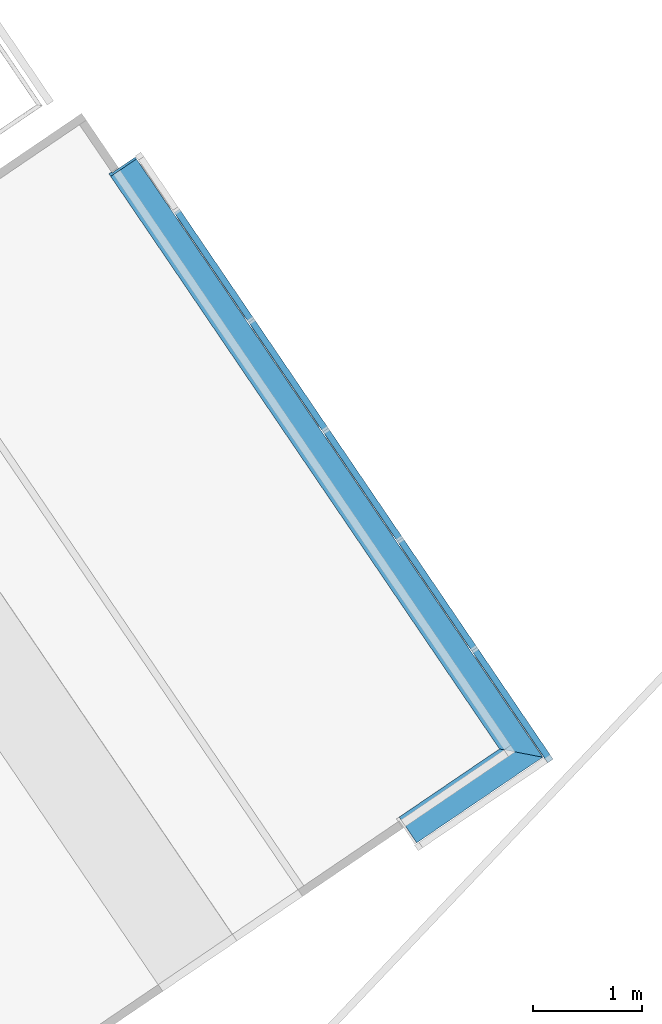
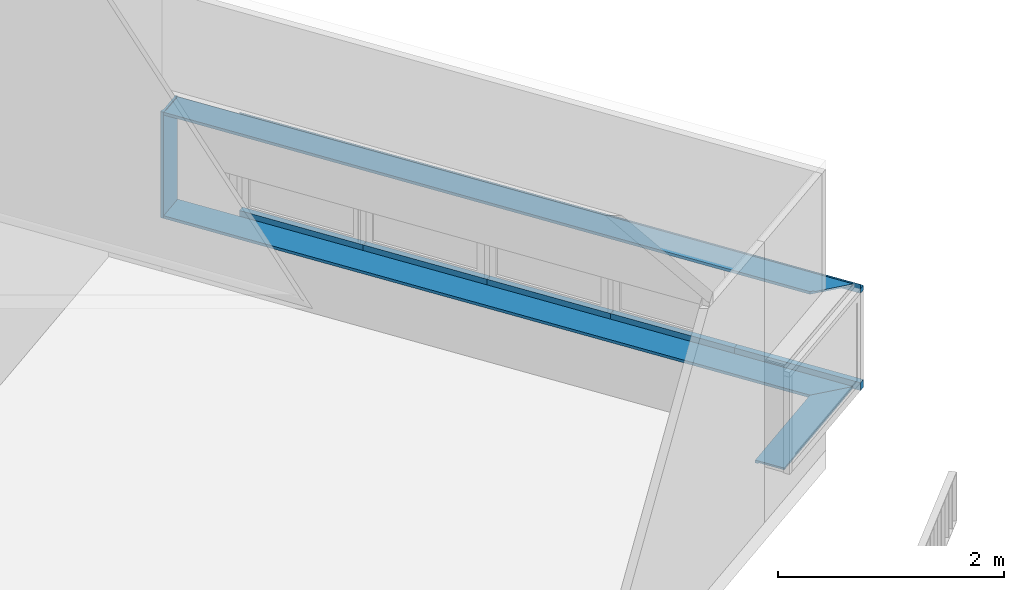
# One storey, part 66 of 243: 14 members, 3 elements without a shape of their own.
"""IFC2X3 building model written with IfcOpenShell, lengths in metres."""

from ifc_helpers import new_model, entity, si_unit, converted_unit, derived_unit, direction, frame, origin, origin_2d_with_axis, place, context, subcontext, project, spatial, polyline, rectangle, outline, extrude, clip, halfspace, source, transform, mapped, material, type_object, type_shapes, element, aggregate, save


model = new_model("IFC2X3")

# Units and contexts
model_context = context("Model", 3, precision=1e-05, world=origin(), true_north=direction((6.123031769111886e-17, 1.0)))
body_context = subcontext(model_context, "Body", "Model", "MODEL_VIEW")
ifc_project = project(units=[si_unit("LENGTHUNIT", "METRE"), si_unit("AREAUNIT", "SQUARE_METRE"), si_unit("VOLUMEUNIT", "CUBIC_METRE"), converted_unit("PLANEANGLEUNIT", "DEGREE", entity("IfcRatioMeasure", 0.017453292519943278), si_unit("PLANEANGLEUNIT", "RADIAN"), dimensions=[0, 0, 0, 0, 0, 0, 0]), si_unit("MASSUNIT", "GRAM", prefix="KILO"), derived_unit("MASSDENSITYUNIT", [(si_unit("MASSUNIT", "GRAM", prefix="KILO"), 1), (si_unit("LENGTHUNIT", "METRE"), -3)]), derived_unit("IONCONCENTRATIONUNIT", [(si_unit("MASSUNIT", "GRAM", prefix="KILO"), 1), (si_unit("LENGTHUNIT", "METRE"), -3)]), derived_unit("MOMENTOFINERTIAUNIT", [(si_unit("LENGTHUNIT", "METRE"), 4)]), si_unit("TIMEUNIT", "SECOND"), si_unit("FREQUENCYUNIT", "HERTZ"), si_unit("THERMODYNAMICTEMPERATUREUNIT", "DEGREE_CELSIUS"), derived_unit("THERMALTRANSMITTANCEUNIT", [(si_unit("MASSUNIT", "GRAM", prefix="KILO"), 1), (si_unit("THERMODYNAMICTEMPERATUREUNIT", "KELVIN"), -1), (si_unit("TIMEUNIT", "SECOND"), -3)]), derived_unit("THERMALCONDUCTANCEUNIT", [(si_unit("MASSUNIT", "GRAM", prefix="KILO"), 1), (si_unit("THERMODYNAMICTEMPERATUREUNIT", "KELVIN"), -1), (si_unit("TIMEUNIT", "SECOND"), -3), (si_unit("LENGTHUNIT", "METRE"), 1)]), derived_unit("VOLUMETRICFLOWRATEUNIT", [(si_unit("LENGTHUNIT", "METRE"), 3), (si_unit("TIMEUNIT", "SECOND"), -1)]), derived_unit("MASSFLOWRATEUNIT", [(si_unit("MASSUNIT", "GRAM", prefix="KILO"), 1), (si_unit("TIMEUNIT", "SECOND"), -1)]), derived_unit("ROTATIONALFREQUENCYUNIT", [(si_unit("TIMEUNIT", "SECOND"), -1)]), si_unit("ELECTRICCURRENTUNIT", "AMPERE"), si_unit("ELECTRICVOLTAGEUNIT", "VOLT"), si_unit("POWERUNIT", "WATT"), si_unit("FORCEUNIT", "NEWTON", prefix="KILO"), si_unit("ILLUMINANCEUNIT", "LUX"), si_unit("LUMINOUSFLUXUNIT", "LUMEN"), si_unit("LUMINOUSINTENSITYUNIT", "CANDELA"), derived_unit("USERDEFINED", [(si_unit("MASSUNIT", "GRAM", prefix="KILO"), -1), (si_unit("LENGTHUNIT", "METRE"), -2), (si_unit("TIMEUNIT", "SECOND"), 3), (si_unit("LUMINOUSFLUXUNIT", "LUMEN"), 1)]), derived_unit("USERDEFINED", [(si_unit("MASSUNIT", "GRAM", prefix="KILO"), 1), (si_unit("TIMEUNIT", "SECOND"), -3), (si_unit("LENGTHUNIT", "METRE"), 3), (si_unit("ELECTRICCURRENTUNIT", "AMPERE"), -2)]), derived_unit("SOUNDPOWERUNIT", [(si_unit("MASSUNIT", "GRAM", prefix="KILO"), 1), (si_unit("TIMEUNIT", "SECOND"), -3), (si_unit("LENGTHUNIT", "METRE"), 2)]), derived_unit("SOUNDPRESSUREUNIT", [(si_unit("MASSUNIT", "GRAM", prefix="KILO"), 1), (si_unit("LENGTHUNIT", "METRE"), -1), (si_unit("TIMEUNIT", "SECOND"), -2)]), derived_unit("LINEARVELOCITYUNIT", [(si_unit("LENGTHUNIT", "METRE"), 1), (si_unit("TIMEUNIT", "SECOND"), -1)]), si_unit("PRESSUREUNIT", "PASCAL"), derived_unit("USERDEFINED", [(si_unit("MASSUNIT", "GRAM", prefix="KILO"), 1), (si_unit("LENGTHUNIT", "METRE"), -2), (si_unit("TIMEUNIT", "SECOND"), -2)]), derived_unit("LINEARFORCEUNIT", [(si_unit("MASSUNIT", "GRAM", prefix="KILO"), 1), (si_unit("TIMEUNIT", "SECOND"), -2)]), derived_unit("PLANARFORCEUNIT", [(si_unit("MASSUNIT", "GRAM", prefix="KILO"), 1), (si_unit("LENGTHUNIT", "METRE"), -1), (si_unit("TIMEUNIT", "SECOND"), -2)]), derived_unit("SPECIFICHEATCAPACITYUNIT", [(si_unit("THERMODYNAMICTEMPERATUREUNIT", "KELVIN"), -1), (si_unit("LENGTHUNIT", "METRE"), 2), (si_unit("TIMEUNIT", "SECOND"), -2)]), derived_unit("HEATINGVALUEUNIT", [(si_unit("LENGTHUNIT", "METRE"), 2), (si_unit("TIMEUNIT", "SECOND"), -2)]), derived_unit("VAPORPERMEABILITYUNIT", [(si_unit("LENGTHUNIT", "METRE"), -1), (si_unit("TIMEUNIT", "SECOND"), 1)]), derived_unit("DYNAMICVISCOSITYUNIT", [(si_unit("MASSUNIT", "GRAM", prefix="KILO"), 1), (si_unit("TIMEUNIT", "SECOND"), -1), (si_unit("LENGTHUNIT", "METRE"), -1)]), derived_unit("THERMALEXPANSIONCOEFFICIENTUNIT", [(si_unit("THERMODYNAMICTEMPERATUREUNIT", "KELVIN"), -1)]), derived_unit("MODULUSOFELASTICITYUNIT", [(si_unit("MASSUNIT", "GRAM", prefix="KILO"), 1), (si_unit("LENGTHUNIT", "METRE"), -1), (si_unit("TIMEUNIT", "SECOND"), -2)]), derived_unit("ISOTHERMALMOISTURECAPACITYUNIT", [(si_unit("LENGTHUNIT", "METRE"), 3), (si_unit("MASSUNIT", "GRAM", prefix="KILO"), -1)]), derived_unit("MOISTUREDIFFUSIVITYUNIT", [(si_unit("TIMEUNIT", "SECOND"), -1), (si_unit("LENGTHUNIT", "METRE"), 2)])], contexts=[model_context])

# Site, building, storey
site_placement = place(None, frame((0.0, 0.0, 235.0), z_axis=(0.0, 0.0, 1.0), x_axis=(-0.7996477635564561, 0.6004693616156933, 0.0)))
site = spatial("IfcSite", under=ifc_project, at=site_placement, Name="Default", CompositionType="ELEMENT")
building_placement = place(site_placement, origin())
building = spatial("IfcBuilding", under=site, at=building_placement, CompositionType="ELEMENT")
storey_placement = place(building_placement, origin())
storey = spatial("IfcBuildingStorey", under=building, at=storey_placement, Name="P0- Escola", CompositionType="ELEMENT", Elevation=0.0)

# Curtain wall, members
curtain_wall_type_1 = type_object("IfcCurtainWallType", Name="Muro cortina:MC- EXT- MC7", PredefinedType="NOTDEFINED")
curtain_wall_1_placement = place(storey_placement, origin())
curtain_wall_1 = element("IfcCurtainWall", 1, at=curtain_wall_1_placement, inside=storey, type_object=curtain_wall_type_1, Name="Muro cortina:MC- EXT- MC7", ObjectType="Muro cortina:MC- EXT- MC7")
ifc_material_1 = material(Name="_Alumini- T1- Perfil")
member_type_1 = type_object("IfcMemberType", Name="Montante rectangular:MC- Alu- 52x80 cm- Fa pista- inferior", PredefinedType="MULLION", material=ifc_material_1)
shared_shape_1 = source(origin(), body_context, "Body", "SweptSolid", [
    extrude(rectangle(XDim=0.06000000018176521, YDim=0.085, at=origin_2d_with_axis()), frame((-0.0425, -0.030000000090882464, -1.243000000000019), z_axis=(0.0, 0.0, 1.0), x_axis=(0.0, -1.0, 0.0)), (0.0, 0.0, 1.0), 1.2430000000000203),
])
type_shapes(member_type_1, [shared_shape_1])
member_1_placement = place(curtain_wall_1_placement, frame((57.87337592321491, -50.77606702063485, 0.6000000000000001), z_axis=(-0.9460037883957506, 0.3241555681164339, 0.0), x_axis=(0.0, 0.0, -1.0)))
member_1 = element("IfcMember", 2, at=member_1_placement, type_object=member_type_1, material=ifc_material_1, Name="Montante rectangular:MC- Alu- 52x80 cm- Fa pista- inferior", ObjectType="Montante rectangular:MC- Alu- 52x80 cm- Fa pista- inferior", context=body_context, shape_type="MappedRepresentation", body=[
    mapped(shared_shape_1, transform((0.0, 0.0, 0.0), scale=1.0)),
])
member_type_2 = type_object("IfcMemberType", Name="Montante rectangular:MC- Alu- 140x52,5 cm- Fa pista- Superior", PredefinedType="MULLION", material=ifc_material_1)
shared_shape_2 = source(origin(), body_context, "Body", "SweptSolid", [
    extrude(outline(polyline([(-0.03933333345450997, -0.04916666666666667), (0.02066666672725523, -0.04916666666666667), (0.020666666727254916, 0.048333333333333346), (0.018666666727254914, 0.04833333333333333), (0.018666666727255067, 0.00083333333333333), (-0.03933333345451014, 0.00083333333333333), (-0.03933333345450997, -0.04916666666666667)])), frame((-0.048333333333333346, -0.03933333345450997, -1.2190000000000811), z_axis=(0.0, 0.0, 1.0), x_axis=(0.0, -1.0, 0.0)), (0.0, 0.0, 1.0), 1.219000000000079),
])
type_shapes(member_type_2, [shared_shape_2])
member_2_placement = place(curtain_wall_1_placement, frame((63.659135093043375, -52.75860247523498, 1.7499999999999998), z_axis=(0.9460037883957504, -0.32415556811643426, 0.0), x_axis=(0.0, 0.0, 1.0)))
member_2 = element("IfcMember", 3, at=member_2_placement, type_object=member_type_2, material=ifc_material_1, Name="Montante rectangular:MC- Alu- 140x52,5 cm- Fa pista- Superior", ObjectType="Montante rectangular:MC- Alu- 140x52,5 cm- Fa pista- Superior", context=body_context, shape_type="MappedRepresentation", body=[
    mapped(shared_shape_2, transform((0.0, 0.0, 0.0), scale=1.0)),
])
member_type_3 = type_object("IfcMemberType", Name="Montante rectangular:MC- Alu- 140x52,5 cm- Fa pista- Superior", PredefinedType="MULLION", material=ifc_material_1)
shared_shape_3 = source(origin(), body_context, "Body", "SweptSolid", [
    extrude(outline(polyline([(-0.03933333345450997, -0.04916666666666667), (0.02066666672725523, -0.04916666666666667), (0.020666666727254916, 0.048333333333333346), (0.018666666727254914, 0.04833333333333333), (0.018666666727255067, 0.00083333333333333), (-0.03933333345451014, 0.00083333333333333), (-0.03933333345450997, -0.04916666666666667)])), frame((-0.048333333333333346, -0.03933333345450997, -1.2179999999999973), z_axis=(0.0, 0.0, 1.0), x_axis=(0.0, -1.0, 0.0)), (0.0, 0.0, 1.0), 1.217999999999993),
])
type_shapes(member_type_3, [shared_shape_3])
member_3_placement = place(curtain_wall_1_placement, frame((62.50595647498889, -52.36345683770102, 1.7499999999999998), z_axis=(0.9460037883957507, -0.32415556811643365, 0.0), x_axis=(0.0, 0.0, 1.0)))
member_3 = element("IfcMember", 4, at=member_3_placement, type_object=member_type_3, material=ifc_material_1, Name="Montante rectangular:MC- Alu- 140x52,5 cm- Fa pista- Superior", ObjectType="Montante rectangular:MC- Alu- 140x52,5 cm- Fa pista- Superior", context=body_context, shape_type="MappedRepresentation", body=[
    mapped(shared_shape_3, transform((0.0, 0.0, 0.0), scale=1.0)),
])
member_4_placement = place(curtain_wall_1_placement, frame((61.353723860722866, -51.9686353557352, 1.7499999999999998), z_axis=(0.9460037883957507, -0.3241555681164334, 0.0), x_axis=(0.0, 0.0, 1.0)))
member_4 = element("IfcMember", 5, at=member_4_placement, type_object=member_type_3, material=ifc_material_1, Name="Montante rectangular:MC- Alu- 140x52,5 cm- Fa pista- Superior", ObjectType="Montante rectangular:MC- Alu- 140x52,5 cm- Fa pista- Superior", context=body_context, shape_type="MappedRepresentation", body=[
    mapped(shared_shape_3, transform((0.0, 0.0, 0.0), scale=1.0)),
])
member_5_placement = place(curtain_wall_1_placement, frame((60.20149124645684, -51.573813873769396, 1.7499999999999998), z_axis=(0.9460037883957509, -0.32415556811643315, 0.0), x_axis=(0.0, 0.0, 1.0)))
member_5 = element("IfcMember", 6, at=member_5_placement, type_object=member_type_3, material=ifc_material_1, Name="Montante rectangular:MC- Alu- 140x52,5 cm- Fa pista- Superior", ObjectType="Montante rectangular:MC- Alu- 140x52,5 cm- Fa pista- Superior", context=body_context, shape_type="MappedRepresentation", body=[
    mapped(shared_shape_3, transform((0.0, 0.0, 0.0), scale=1.0)),
])
member_type_4 = type_object("IfcMemberType", Name="Montante rectangular:MC- Alu- 52x80 cm- Fa pista- inferior", PredefinedType="MULLION", material=ifc_material_1)
shared_shape_4 = source(origin(), body_context, "Body", "SweptSolid", [
    extrude(rectangle(XDim=0.06000000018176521, YDim=0.085, at=origin_2d_with_axis()), frame((-0.0425, -0.030000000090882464, -1.2190000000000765), z_axis=(0.0, 0.0, 1.0), x_axis=(0.0, -1.0, 0.0)), (0.0, 0.0, 1.0), 1.2190000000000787),
])
type_shapes(member_type_4, [shared_shape_4])
member_6_placement = place(curtain_wall_1_placement, frame((62.505956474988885, -52.36345683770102, 0.6000000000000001), z_axis=(-0.9460037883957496, 0.32415556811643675, 0.0), x_axis=(0.0, 0.0, -1.0)))
member_6 = element("IfcMember", 7, at=member_6_placement, type_object=member_type_4, material=ifc_material_1, Name="Montante rectangular:MC- Alu- 52x80 cm- Fa pista- inferior", ObjectType="Montante rectangular:MC- Alu- 52x80 cm- Fa pista- inferior", context=body_context, shape_type="MappedRepresentation", body=[
    mapped(shared_shape_4, transform((0.0, 0.0, 0.0), scale=1.0)),
])
member_type_5 = type_object("IfcMemberType", Name="Montante rectangular:MC- Alu- 52x80 cm- Fa pista- inferior", PredefinedType="MULLION", material=ifc_material_1)
shared_shape_5 = source(origin(), body_context, "Body", "SweptSolid", [
    extrude(rectangle(XDim=0.06000000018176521, YDim=0.085, at=origin_2d_with_axis()), frame((-0.0425, -0.030000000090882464, -1.217999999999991), z_axis=(0.0, 0.0, 1.0), x_axis=(0.0, -1.0, 0.0)), (0.0, 0.0, 1.0), 1.2179999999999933),
])
type_shapes(member_type_5, [shared_shape_5])
member_7_placement = place(curtain_wall_1_placement, frame((61.353723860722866, -51.9686353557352, 0.6000000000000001), z_axis=(-0.9460037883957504, 0.32415556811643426, 0.0), x_axis=(0.0, 0.0, -1.0)))
member_7 = element("IfcMember", 8, at=member_7_placement, type_object=member_type_5, material=ifc_material_1, Name="Montante rectangular:MC- Alu- 52x80 cm- Fa pista- inferior", ObjectType="Montante rectangular:MC- Alu- 52x80 cm- Fa pista- inferior", context=body_context, shape_type="MappedRepresentation", body=[
    mapped(shared_shape_5, transform((0.0, 0.0, 0.0), scale=1.0)),
])
member_8_placement = place(curtain_wall_1_placement, frame((60.201491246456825, -51.57381387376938, 0.6000000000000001), z_axis=(-0.9460037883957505, 0.3241555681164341, 0.0), x_axis=(0.0, 0.0, -1.0)))
member_8 = element("IfcMember", 9, at=member_8_placement, type_object=member_type_5, material=ifc_material_1, Name="Montante rectangular:MC- Alu- 52x80 cm- Fa pista- inferior", ObjectType="Montante rectangular:MC- Alu- 52x80 cm- Fa pista- inferior", context=body_context, shape_type="MappedRepresentation", body=[
    mapped(shared_shape_5, transform((0.0, 0.0, 0.0), scale=1.0)),
])
member_9_placement = place(curtain_wall_1_placement, frame((59.0492586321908, -51.17899239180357, 0.6000000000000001), z_axis=(-0.9460037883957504, 0.32415556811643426, 0.0), x_axis=(0.0, 0.0, -1.0)))
member_9 = element("IfcMember", 10, at=member_9_placement, type_object=member_type_5, material=ifc_material_1, Name="Montante rectangular:MC- Alu- 52x80 cm- Fa pista- inferior", ObjectType="Montante rectangular:MC- Alu- 52x80 cm- Fa pista- inferior", context=body_context, shape_type="MappedRepresentation", body=[
    mapped(shared_shape_5, transform((0.0, 0.0, 0.0), scale=1.0)),
])
member_type_6 = type_object("IfcMemberType", Name="Montante rectangular:MC- Alu- 140x52,5 cm- Fa pista- Superior", PredefinedType="MULLION", material=ifc_material_1)
shared_shape_6 = source(origin(), body_context, "Body", "SweptSolid", [
    extrude(outline(polyline([(-0.03933333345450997, -0.04916666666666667), (0.020666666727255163, -0.04916666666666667), (0.020666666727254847, 0.048333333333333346), (0.018666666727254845, 0.04833333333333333), (0.018666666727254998, 0.00083333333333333), (-0.03933333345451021, 0.00083333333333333), (-0.03933333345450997, -0.04916666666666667)])), frame((-0.048333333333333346, -0.03933333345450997, -1.2429999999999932), z_axis=(0.0, 0.0, 1.0), x_axis=(0.0, -1.0, 0.0)), (0.0, 0.0, 1.0), 1.2429999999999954),
])
type_shapes(member_type_6, [shared_shape_6])
member_10_placement = place(curtain_wall_1_placement, frame((59.049258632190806, -51.17899239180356, 1.7499999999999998), z_axis=(0.9460037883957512, -0.32415556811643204, 0.0), x_axis=(0.0, 0.0, 1.0)))
member_10 = element("IfcMember", 11, at=member_10_placement, type_object=member_type_6, material=ifc_material_1, Name="Montante rectangular:MC- Alu- 140x52,5 cm- Fa pista- Superior", ObjectType="Montante rectangular:MC- Alu- 140x52,5 cm- Fa pista- Superior", context=body_context, shape_type="MappedRepresentation", body=[
    mapped(shared_shape_6, transform((0.0, 0.0, 0.0), scale=1.0)),
])
aggregate(curtain_wall_1, [member_1, member_2, member_3, member_6, member_4, member_7, member_5, member_8, member_10, member_9])

curtain_wall_type_2 = type_object("IfcCurtainWallType", PredefinedType="NOTDEFINED")
curtain_wall_2_placement = place(storey_placement, origin())
curtain_wall_2 = element("IfcCurtainWall", 12, at=curtain_wall_2_placement, inside=storey, type_object=curtain_wall_type_2)
ifc_material_2 = material(Name="_Fusta massisa- T1")
member_type_7 = type_object("IfcMemberType", Name="Montante rectangular:MC- Fusta- 28x3 cm- Biblio- Dreta", PredefinedType="MULLION", material=ifc_material_2)
shared_shape_7 = source(origin(), body_context, "Body", "SweptSolid", [
    clip(extrude(outline(polyline([(-0.18133333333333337, -0.01666666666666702), (0.10566666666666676, -0.01666666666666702), (0.10566666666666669, 0.013333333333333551), (0.07566666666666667, 0.013333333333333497), (0.07566666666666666, 0.003333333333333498), (-0.1813333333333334, 0.0033333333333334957), (-0.18133333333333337, -0.01666666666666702)])), frame((-0.013333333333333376, 0.0006666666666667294, -6.651999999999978), z_axis=(0.0, 0.0, 1.0), x_axis=(0.0, -1.0, 0.0)), (0.0, 0.0, 1.0), 6.6519999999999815), halfspace(frame((0.3048, 0.0, -6.469999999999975), z_axis=(0.0, -0.7071067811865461, -0.7071067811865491), x_axis=(0.0, -0.7071067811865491, 0.7071067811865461)), False)),
])
type_shapes(member_type_7, [shared_shape_7])
member_11_placement = place(curtain_wall_2_placement, frame((64.31156027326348, -52.717891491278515, 1.7499999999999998), z_axis=(0.9460037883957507, -0.3241555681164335, 0.0), x_axis=(0.0, 0.0, 1.0)))
member_11 = element("IfcMember", 13, at=member_11_placement, type_object=member_type_7, material=ifc_material_2, Name="Montante rectangular:MC- Fusta- 28x3 cm- Biblio- Dreta", ObjectType="Montante rectangular:MC- Fusta- 28x3 cm- Biblio- Dreta", context=body_context, shape_type="MappedRepresentation", body=[
    mapped(shared_shape_7, transform((0.0, 0.0, 0.0), scale=1.0)),
])
member_type_8 = type_object("IfcMemberType", Name="Montante rectangular:MC- Fusta- 28x3 cm- Biblio- Dreta", PredefinedType="MULLION", material=ifc_material_2)
shared_shape_8 = source(origin(), body_context, "Body", "SweptSolid", [
    extrude(outline(polyline([(-0.18133333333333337, -0.01666666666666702), (0.10566666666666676, -0.01666666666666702), (0.10566666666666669, 0.013333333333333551), (0.07566666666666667, 0.013333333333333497), (0.07566666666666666, 0.003333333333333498), (-0.1813333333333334, 0.0033333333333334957), (-0.18133333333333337, -0.01666666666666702)])), frame((-0.013333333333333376, 0.0006666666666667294, -1.15), z_axis=(0.0, 0.0, 1.0), x_axis=(0.0, -1.0, 0.0)), (0.0, 0.0, 1.0), 1.15),
])
type_shapes(member_type_8, [shared_shape_8])
member_12_placement = place(curtain_wall_2_placement, frame((64.33994038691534, -52.72761615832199, 0.5999999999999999), z_axis=(0.0, 0.0, -1.0), x_axis=(0.9460037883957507, -0.3241555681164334, 0.0)))
member_12 = element("IfcMember", 14, at=member_12_placement, type_object=member_type_8, material=ifc_material_2, Name="Montante rectangular:MC- Fusta- 28x3 cm- Biblio- Dreta", ObjectType="Montante rectangular:MC- Fusta- 28x3 cm- Biblio- Dreta", context=body_context, shape_type="MappedRepresentation", body=[
    mapped(shared_shape_8, transform((0.0, 0.0, 0.0), scale=1.0)),
])
member_type_9 = type_object("IfcMemberType", Name="Montante rectangular:MC- Fusta- 28x3 cm- Biblio- Esquerra", PredefinedType="MULLION", material=ifc_material_2)
shared_shape_9 = source(origin(), body_context, "Body", "SweptSolid", [
    clip(extrude(outline(polyline([(-0.18133333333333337, -0.01666666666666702), (0.10566666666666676, -0.01666666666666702), (0.10566666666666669, 0.013333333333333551), (0.07566666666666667, 0.013333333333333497), (0.07566666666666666, 0.003333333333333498), (-0.1813333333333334, 0.0033333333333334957), (-0.18133333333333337, -0.01666666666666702)])), frame((-0.013333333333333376, 0.0006666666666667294, -6.469999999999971), z_axis=(0.0, 0.0, 1.0), x_axis=(0.0, -1.0, 0.0)), (0.0, 0.0, 1.0), 6.651999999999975), halfspace(frame((0.3048, 0.0, 0.0), z_axis=(0.0, -0.7071067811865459, 0.7071067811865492), x_axis=(0.0, -0.7071067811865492, -0.7071067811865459)), False)),
])
type_shapes(member_type_9, [shared_shape_9])
member_13_placement = place(curtain_wall_2_placement, frame((58.190915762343, -50.62060496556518, 0.5999999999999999), z_axis=(-0.9460037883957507, 0.3241555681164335, 0.0), x_axis=(0.0, 0.0, -1.0)))
member_13 = element("IfcMember", 15, at=member_13_placement, type_object=member_type_9, material=ifc_material_2, Name="Montante rectangular:MC- Fusta- 28x3 cm- Biblio- Esquerra", ObjectType="Montante rectangular:MC- Fusta- 28x3 cm- Biblio- Esquerra", context=body_context, shape_type="MappedRepresentation", body=[
    mapped(shared_shape_9, transform((0.0, 0.0, 0.0), scale=1.0)),
])
aggregate(curtain_wall_2, [member_11, member_12, member_13])

# Curtain wall, member
curtain_wall_3_placement = place(storey_placement, origin())
curtain_wall_3 = element("IfcCurtainWall", 16, at=curtain_wall_3_placement, inside=storey, type_object=curtain_wall_type_2)
member_type_10 = type_object("IfcMemberType", Name="Montante rectangular:MC- Fusta- 28x3 cm- Biblio- Esquerra", PredefinedType="MULLION", material=ifc_material_2)
shared_shape_10 = source(origin(), body_context, "Body", "SweptSolid", [
    clip(extrude(outline(polyline([(-0.10566666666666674, -0.016666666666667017), (0.18133333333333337, -0.016666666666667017), (0.18133333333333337, 0.0033333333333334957), (-0.07566666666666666, 0.003333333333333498), (-0.07566666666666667, 0.013333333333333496), (-0.10566666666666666, 0.013333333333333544), (-0.10566666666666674, -0.016666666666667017)])), frame((-0.013333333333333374, -0.0006666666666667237, -1.220000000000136), z_axis=(0.0, 0.0, 1.0), x_axis=(0.0, -1.0, 0.0)), (0.0, 0.0, 1.0), 1.4020000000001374), halfspace(frame((-0.3048, 0.0, 0.0), z_axis=(0.0, 0.7071067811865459, 0.7071067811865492), x_axis=(0.0, 0.7071067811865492, -0.7071067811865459)), False)),
])
type_shapes(member_type_10, [shared_shape_10])
member_14_placement = place(curtain_wall_3_placement, frame((58.190915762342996, -50.62060496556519, 0.5999999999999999), z_axis=(-0.32415556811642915, -0.9460037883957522, 0.0), x_axis=(0.0, 0.0, -1.0)))
member_14 = element("IfcMember", 17, at=member_14_placement, type_object=member_type_10, material=ifc_material_2, Name="Montante rectangular:MC- Fusta- 28x3 cm- Biblio- Esquerra", ObjectType="Montante rectangular:MC- Fusta- 28x3 cm- Biblio- Esquerra", context=body_context, shape_type="MappedRepresentation", body=[
    mapped(shared_shape_10, transform((0.0, 0.0, 0.0), scale=1.0)),
])
aggregate(curtain_wall_3, [member_14])

save(model, "model.ifc")
